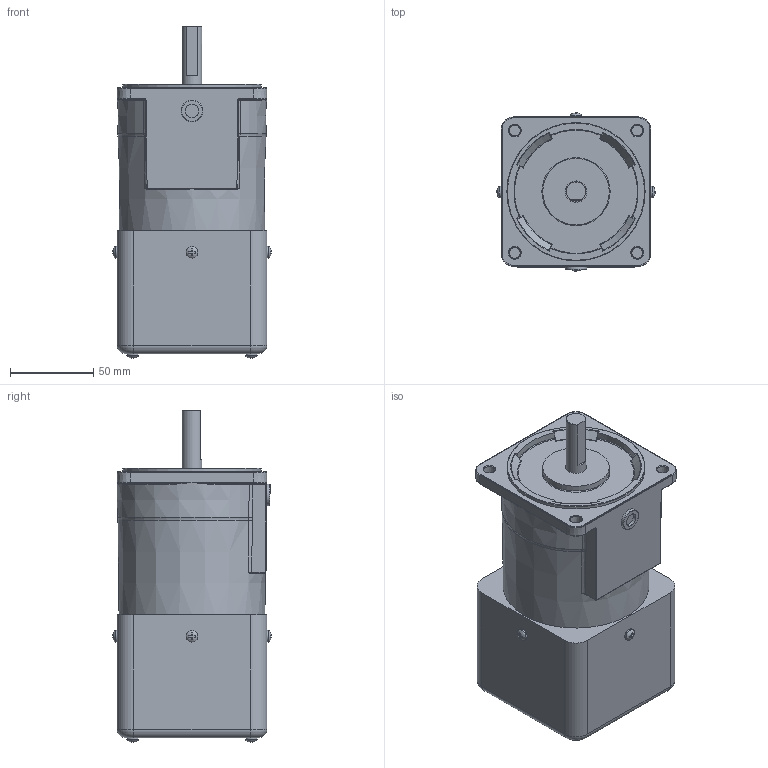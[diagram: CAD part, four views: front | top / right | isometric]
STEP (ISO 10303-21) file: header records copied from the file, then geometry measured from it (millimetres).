
FILE_DESCRIPTION (( 'STEP AP214' ), '1' );
FILE_NAME ('9TDD¤±-30F2.STEP', '2025-01-13T08:12:01', ( '' ), ( '' ), 'SwSTEP 2.0', 'SolidWorks 2024', '' );
FILE_SCHEMA (( 'AUTOMOTIVE_DESIGN' ));
Length unit declared in the file: millimetre
Products named in the file (1): 9TDDㅁ-30F2
Bounding box: 95.13 x 95.13 x 199.57 mm (x, y, z)
Volume: 1142940.2 mm3; surface area: 74443.1 mm2
Topology: 1 solids, 1 shells, 429 faces, 1099 edges, 702 vertices
Faces by surface type: plane 198, cylinder 134, torus 35, cone 32, bspline 28, sphere 2
Full cylindrical faces by diameter (mm): 6.5 x4, 7 x8, 8 x1, 10 x1, 12 x1, 13 x2, 40 x1, 83.1 x1
Entity records: 13446 total; most frequent: CARTESIAN_POINT 3559, ORIENTED_EDGE 2048, DIRECTION 1979, EDGE_CURVE 1024, AXIS2_PLACEMENT_3D 746, VERTEX_POINT 682, EDGE_LOOP 522, LINE 487
